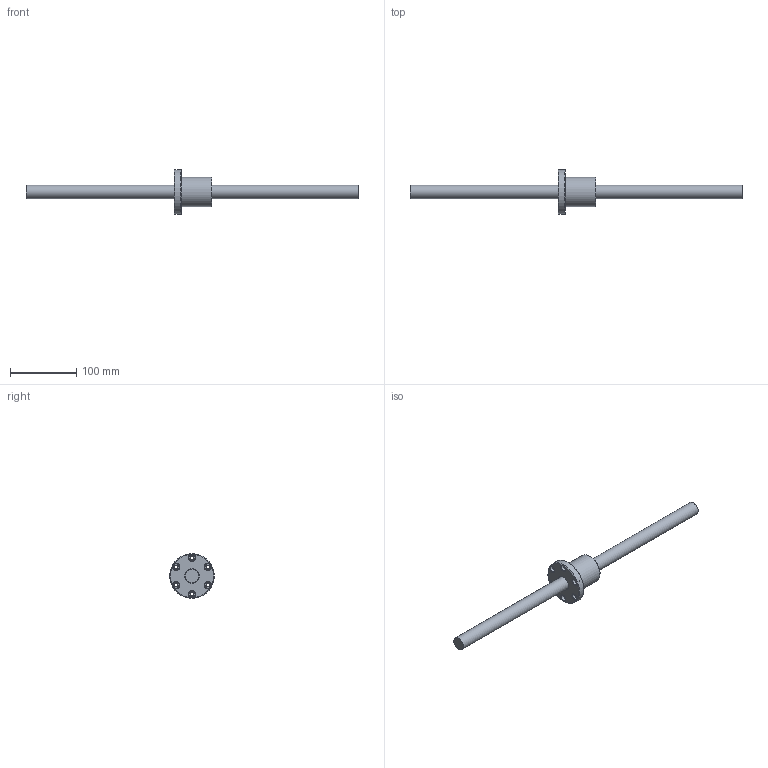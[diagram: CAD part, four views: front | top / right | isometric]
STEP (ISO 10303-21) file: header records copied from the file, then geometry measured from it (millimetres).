
FILE_DESCRIPTION (( 'STEP AP203' ), '1' );
FILE_NAME ('SFV02005N-4.8.step', '2024-05-20T03:37:45', ( '' ), ( '' ), 'SwSTEP 2.0', 'SolidWorks 2022', '' );
FILE_SCHEMA (( 'CONFIG_CONTROL_DESIGN' ));
Length unit declared in the file: millimetre
Products named in the file (1): SFV02005N-4.8
Bounding box: 500 x 67 x 67 mm (x, y, z)
Volume: 240122.8 mm3; surface area: 52200.2 mm2
Topology: 2 solids, 2 shells, 57 faces, 145 edges, 93 vertices
Faces by surface type: cylinder 24, cone 13, plane 12, bspline 5, torus 3
Full cylindrical faces by diameter (mm): 4 x1, 5 x6, 5.5 x6, 9.5 x6, 20 x1, 22.1 x1, 44 x1, 67 x1
Entity records: 3100 total; most frequent: CARTESIAN_POINT 2049, DIRECTION 206, ORIENTED_EDGE 148, EDGE_LOOP 102, AXIS2_PLACEMENT_3D 101, EDGE_CURVE 74, FACE_OUTER_BOUND 72, VERTEX_POINT 64
